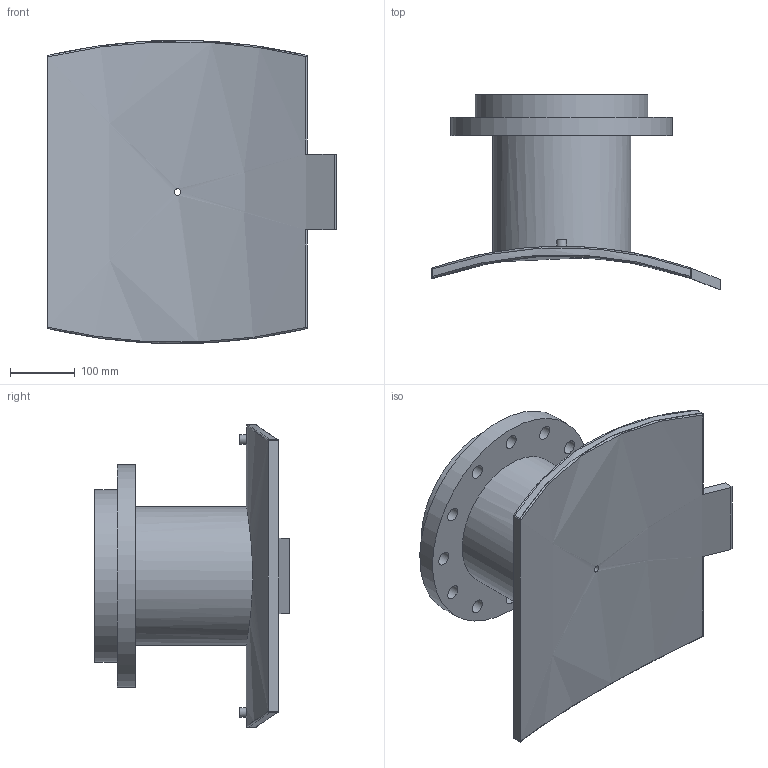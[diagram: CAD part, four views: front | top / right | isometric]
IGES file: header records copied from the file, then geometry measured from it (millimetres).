
Global section: file name: 4959031200200T; native system: Autodesk Inventor 2019; preprocessor: unknown; author: KIM; date: 20240403.210320; units: millimetre
Bounding box: 447 x 301.28 x 469.59 mm (x, y, z)
Volume: 8708698.3 mm3; surface area: 853969.2 mm2
Topology: 1 solids, 1 shells, 62 faces, 163 edges, 126 vertices
Faces by surface type: bspline 62
